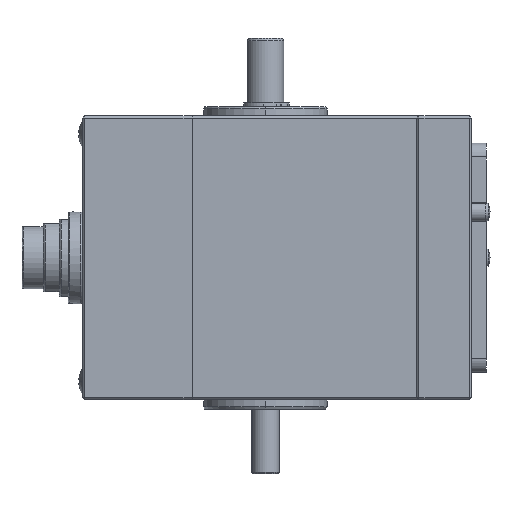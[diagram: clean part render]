
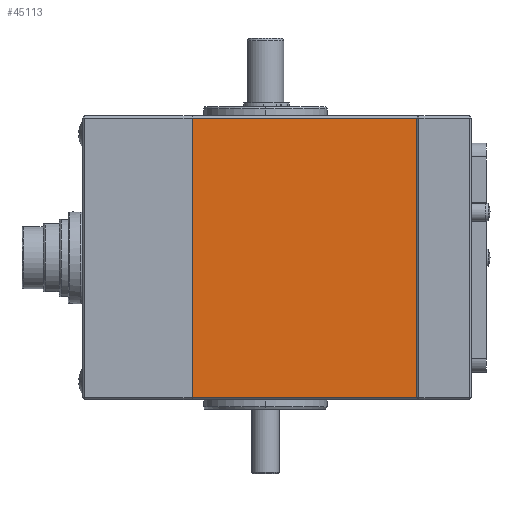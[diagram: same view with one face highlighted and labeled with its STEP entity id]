
A CAD part, left-side view. The second image highlights one B-rep face of the part: STEP entity #45113.
In plain terms, the highlighted planar face has unit normal (-1, 0, 0).
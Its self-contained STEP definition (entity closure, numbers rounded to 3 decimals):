
#651 = VECTOR ( 'NONE', #35951, 1000. ) ;
#1563 = EDGE_CURVE ( 'NONE', #22356, #20099, #40325, .T. ) ;
#4100 = ORIENTED_EDGE ( 'NONE', *, *, #13972, .T. ) ;
#4418 = CARTESIAN_POINT ( 'NONE',  ( -14., 16., 61.5 ) ) ;
#4895 = DIRECTION ( 'NONE',  ( 0., 0., 1. ) ) ;
#7858 = DIRECTION ( 'NONE',  ( 0., -1., 0. ) ) ;
#8888 = EDGE_LOOP ( 'NONE', ( #23341, #4100, #17895, #40079 ) ) ;
#8983 = CARTESIAN_POINT ( 'NONE',  ( -14., -33., 64. ) ) ;
#11525 = VERTEX_POINT ( 'NONE', #19344 ) ;
#12178 = DIRECTION ( 'NONE',  ( 0., 0., -1. ) ) ;
#12871 = CARTESIAN_POINT ( 'NONE',  ( -14., -33., 61.5 ) ) ;
#13972 = EDGE_CURVE ( 'NONE', #20099, #11525, #15853, .T. ) ;
#14575 = AXIS2_PLACEMENT_3D ( 'NONE', #40562, #30261, #37352 ) ;
#15853 = LINE ( 'NONE', #4418, #651 ) ;
#17895 = ORIENTED_EDGE ( 'NONE', *, *, #41797, .T. ) ;
#19344 = CARTESIAN_POINT ( 'NONE',  ( -14., 16., 61.5 ) ) ;
#19751 = FACE_OUTER_BOUND ( 'NONE', #8888, .T. ) ;
#20099 = VERTEX_POINT ( 'NONE', #12871 ) ;
#21100 = VECTOR ( 'NONE', #7858, 1000. ) ;
#22356 = VERTEX_POINT ( 'NONE', #41902 ) ;
#23152 = CARTESIAN_POINT ( 'NONE',  ( -14., 16., 64. ) ) ;
#23341 = ORIENTED_EDGE ( 'NONE', *, *, #1563, .T. ) ;
#26544 = VECTOR ( 'NONE', #12178, 1000. ) ;
#27193 = VECTOR ( 'NONE', #4895, 1000. ) ;
#30261 = DIRECTION ( 'NONE',  ( 1., 0., 0. ) ) ;
#34390 = LINE ( 'NONE', #43012, #21100 ) ;
#35154 = CARTESIAN_POINT ( 'NONE',  ( -14., 16., 0.5 ) ) ;
#35951 = DIRECTION ( 'NONE',  ( 0., 1., 0. ) ) ;
#37238 = VERTEX_POINT ( 'NONE', #35154 ) ;
#37352 = DIRECTION ( 'NONE',  ( 0., 0., -1. ) ) ;
#40079 = ORIENTED_EDGE ( 'NONE', *, *, #41642, .T. ) ;
#40120 = PLANE ( 'NONE',  #14575 ) ;
#40325 = LINE ( 'NONE', #8983, #27193 ) ;
#40562 = CARTESIAN_POINT ( 'NONE',  ( -14., -14., 64. ) ) ;
#40746 = LINE ( 'NONE', #23152, #26544 ) ;
#41642 = EDGE_CURVE ( 'NONE', #37238, #22356, #34390, .T. ) ;
#41797 = EDGE_CURVE ( 'NONE', #11525, #37238, #40746, .T. ) ;
#41902 = CARTESIAN_POINT ( 'NONE',  ( -14., -33., 0.5 ) ) ;
#43012 = CARTESIAN_POINT ( 'NONE',  ( -14., -33., 0.5 ) ) ;
#45113 = ADVANCED_FACE ( 'NONE', ( #19751 ), #40120, .F. ) ;
